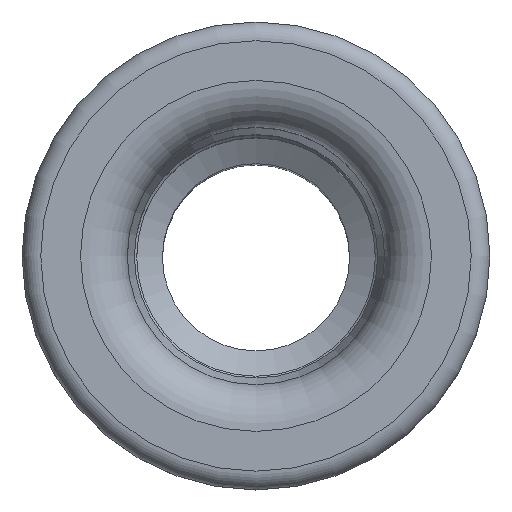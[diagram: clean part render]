
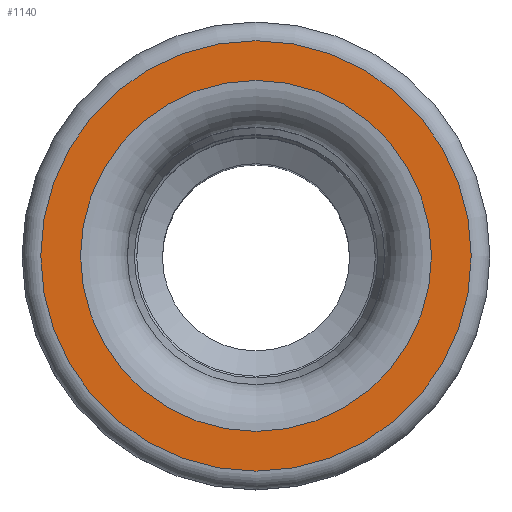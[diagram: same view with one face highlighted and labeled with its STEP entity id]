
A CAD part, top view. The second image highlights one B-rep face of the part: STEP entity #1140.
In plain terms, the highlighted planar face has unit normal (0, 0, 1).
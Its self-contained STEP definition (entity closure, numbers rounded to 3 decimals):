
#1140=ADVANCED_FACE('', (#1150,#1160), #1170, .T.);
#3630=AXIS2_PLACEMENT_3D('Ax2Pl3d', #3640, #3650, #3660);
#3670=AXIS2_PLACEMENT_3D('Ax2Pl3d', #3680, #3690, #3700);
#3710=AXIS2_PLACEMENT_3D('Ax2Pl3d', #3720, #3730, #3740);
#3640=CARTESIAN_POINT('HicPkt', (18.636,12.146,
43.559));
#4520=CARTESIAN_POINT('', (23.236,12.146,43.559));
#3680=CARTESIAN_POINT('HicPkt', (23.236,12.146,
43.559));
#3720=CARTESIAN_POINT('HicPkt', (18.636,12.146,
43.559));
#4530=CARTESIAN_POINT('', (22.386,12.146,43.559));
#4850=CIRCLE('Circle', #3630, 4.6);
#4860=CIRCLE('Circle', #3710, 3.75);
#3650=DIRECTION('Axis', (0.,0.,1.));
#3660=DIRECTION('RefDirection', (1.,0.,-0.));
#3690=DIRECTION('Axis', (0.,0.,1.));
#3700=DIRECTION('RefDirection', (1.,0.,-0.));
#3730=DIRECTION('Axis', (0.,0.,1.));
#3740=DIRECTION('RefDirection', (1.,0.,-0.));
#6530=EDGE_CURVE('', #6540, #6540, #4850, .T.);
#6550=EDGE_CURVE('', #6560, #6560, #4860, .T.);
#7710=EDGE_LOOP('Edge_loop', (#7720));
#7730=EDGE_LOOP('Edge_loop', (#7740));
#1160=FACE_BOUND('', #7730, .T.);
#1150=FACE_OUTER_BOUND('Face_outer_bound', #7710, .T.);
#7720=ORIENTED_EDGE('', *, *, #6530, .T.);
#7740=ORIENTED_EDGE('', *, *, #6550, .F.);
#1170=PLANE('Plane', #3670);
#6540=VERTEX_POINT('', #4520);
#6560=VERTEX_POINT('', #4530);
